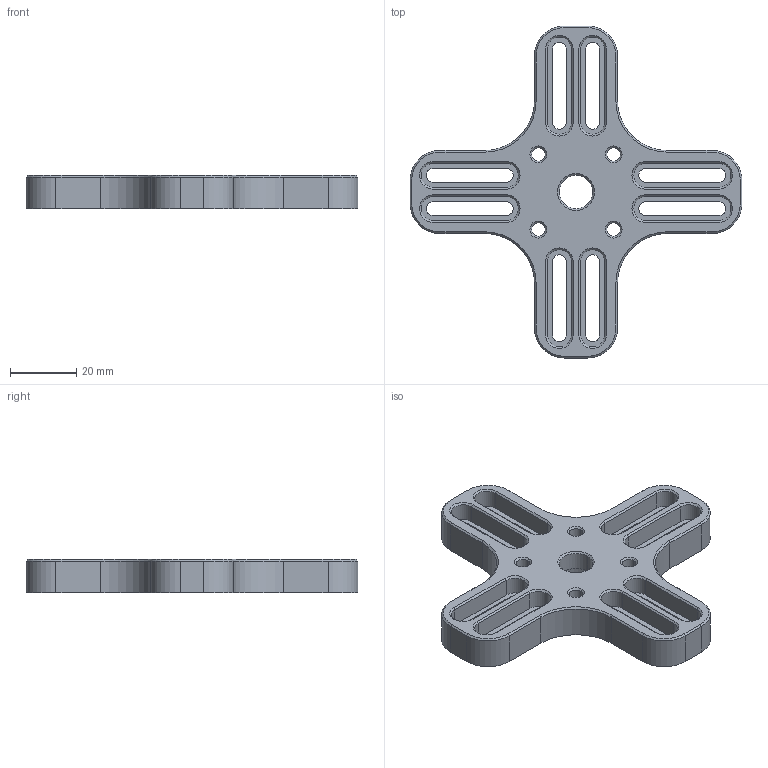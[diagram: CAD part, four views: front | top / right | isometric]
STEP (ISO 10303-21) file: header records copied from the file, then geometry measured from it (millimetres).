
FILE_DESCRIPTION (( 'STEP AP214' ), '1' );
FILE_NAME ('SMP_4S.STEP', '2019-12-04T09:09:50', ( '微软用户' ), ( '微软中国' ), 'SwSTEP 2.0', 'SolidWorks 2016', '' );
FILE_SCHEMA (( 'AUTOMOTIVE_DESIGN' ));
Length unit declared in the file: millimetre
Products named in the file (1): SMP_4S
Bounding box: 100 x 100 x 10 mm (x, y, z)
Volume: 29125.5 mm3; surface area: 16012.5 mm2
Topology: 1 solids, 1 shells, 177 faces, 432 edges, 266 vertices
Faces by surface type: plane 83, cylinder 56, cone 38
Entity records: 7181 total; most frequent: DIRECTION 938, CARTESIAN_POINT 876, ORIENTED_EDGE 864, EDGE_CURVE 432, AXIS2_PLACEMENT_3D 328, LINE 282, VECTOR 282, VERTEX_POINT 266
